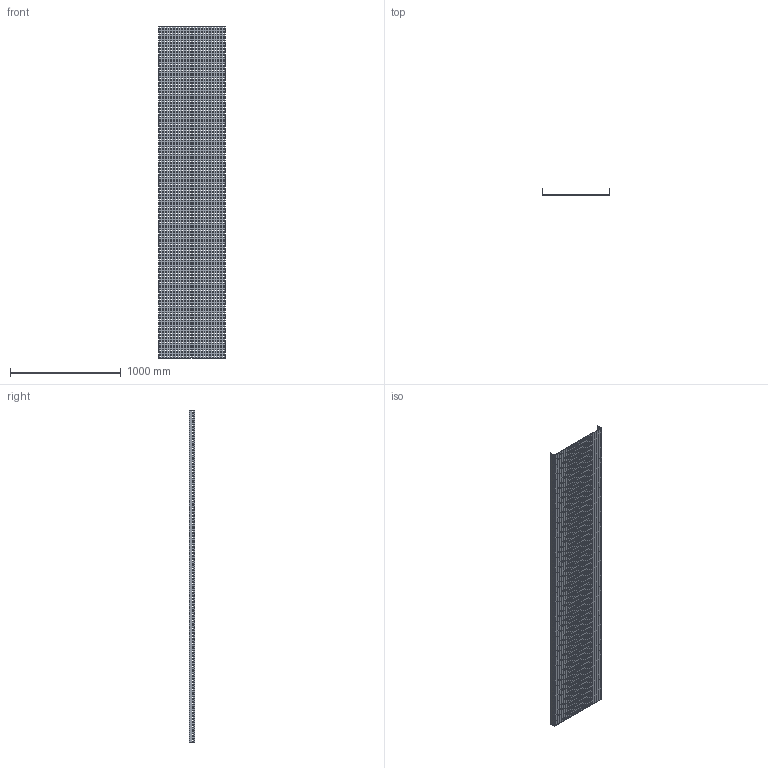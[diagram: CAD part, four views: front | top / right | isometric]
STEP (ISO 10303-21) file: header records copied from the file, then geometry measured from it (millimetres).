
FILE_DESCRIPTION (( 'STEP AP214' ), '1' );
FILE_NAME ('01B3B600.step', '2025-02-21T10:13:01', ( '' ), ( '' ), 'SwSTEP 2.0', 'SolidWorks 2023', '' );
FILE_SCHEMA (( 'AUTOMOTIVE_DESIGN' ));
Products named in the file (1): 01B3B600
Bounding box: 604 x 52 x 3000 mm (x, y, z)
Volume: 6213900 mm3; surface area: 3996035 mm2
Topology: 1 solids, 1 shells, 7498 faces, 22488 edges, 14992 vertices
Faces by surface type: plane 7498
Entity records: 254903 total; most frequent: CARTESIAN_POINT 44979, ORIENTED_EDGE 44976, DIRECTION 37486, LINE 22488, EDGE_CURVE 22488, VECTOR 22488, VERTEX_POINT 14992, EDGE_LOOP 11242
